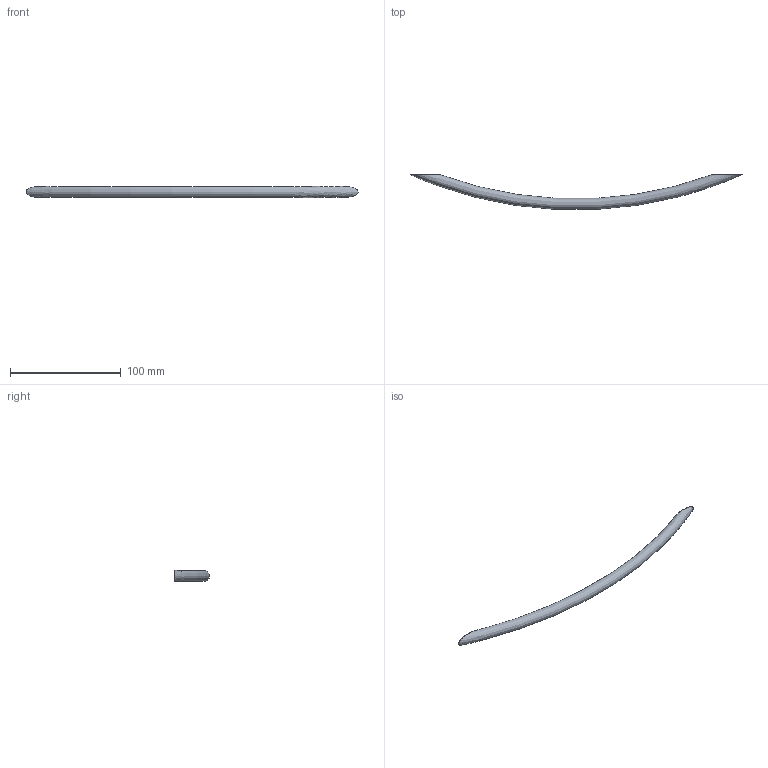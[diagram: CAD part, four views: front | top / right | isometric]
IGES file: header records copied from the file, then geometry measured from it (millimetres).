
Start section: Data from Parasolid IGES Translator 15.0.47, Copyright(c) 2006 Siemens P LM Software. All Rights Reserved.
Global section: file name:  9070466.igs; native system:  By UGS Corp.; preprocessor: XPlus GENERIC/IGES 3.0; author: Noname; organization: Noname; date: 20140122.155218; units: millimetre
Bounding box: 300 x 31.53 x 10 mm (x, y, z)
Surface area: 9397.3 mm2 (no closed solid volume)
Topology: 0 solids, 0 shells, 7 faces, 18 edges, 14 vertices
Faces by surface type: extrusion 4, revolution 3
